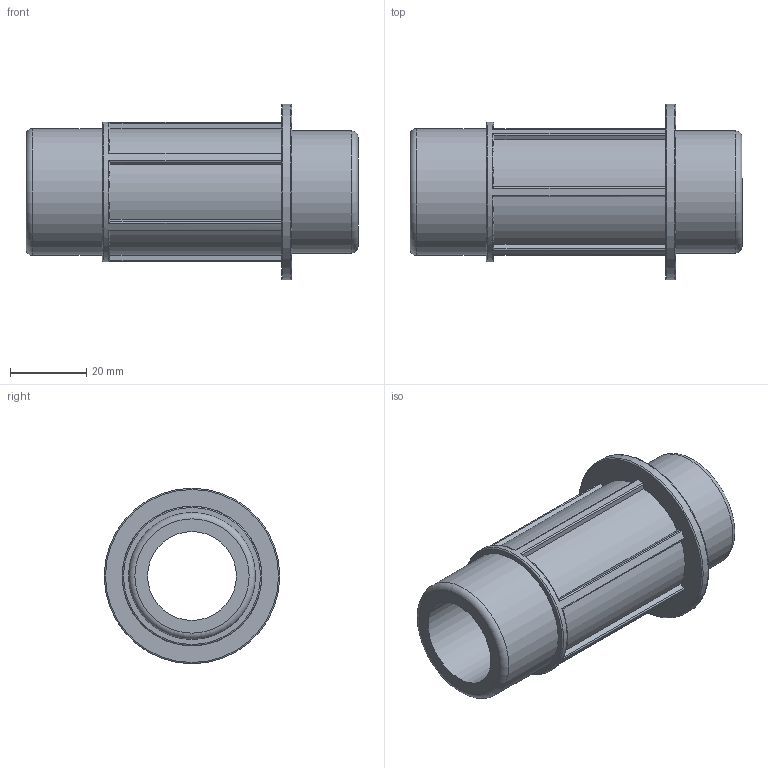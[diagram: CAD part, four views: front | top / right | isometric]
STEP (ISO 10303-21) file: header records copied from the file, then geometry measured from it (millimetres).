
FILE_DESCRIPTION(/* description */ ('PLASSON THREADED MALE ADAPTOR 32-1"'),/* implementation_level */ '2;1');
FILE_NAME(/* name */ 'C:\Dropbox\KIMPROJECTS-Inventor\99-16-3568-Processing\Silver+MF ISRAEL\078901\078901032010.ipt.stp',/* time_stamp */ '2018-04-09T13:01:55+03:00',/* author */ ('KIM'),/* organization */ (''),/* preprocessor_version */ 'ST-DEVELOPER v15.6',/* originating_system */ 'Autodesk Inventor 2015',/* authorisation */ '');
FILE_SCHEMA (('AUTOMOTIVE_DESIGN { 1 0 10303 214 3 1 1 }'));
Length unit declared in the file: millimetre
Products named in the file (1): 078901032010
Bounding box: 87 x 46 x 46 mm (x, y, z)
Volume: 40899.8 mm3; surface area: 18904 mm2
Topology: 1 solids, 1 shells, 57 faces, 151 edges, 99 vertices
Faces by surface type: cylinder 23, plane 23, torus 11
Full cylindrical faces by diameter (mm): 23.274 x1, 32 x1, 33.249 x1, 36.574 x1, 46 x1
Entity records: 1894 total; most frequent: CARTESIAN_POINT 488, DIRECTION 288, ORIENTED_EDGE 280, EDGE_CURVE 140, AXIS2_PLACEMENT_3D 114, VERTEX_POINT 98, EDGE_LOOP 72, LINE 60
